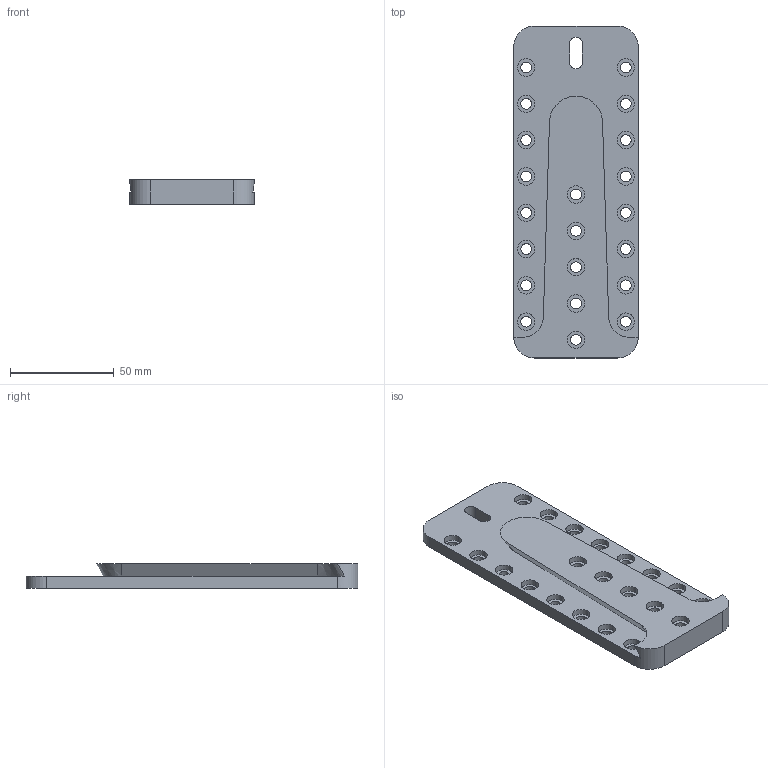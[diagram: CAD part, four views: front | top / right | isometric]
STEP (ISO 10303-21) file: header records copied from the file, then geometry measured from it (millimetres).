
FILE_DESCRIPTION (( 'STEP AP203' ), '1' );
FILE_NAME ('UV_60_HT_Holz.STEP', '2019-11-14T13:33:45', ( '' ), ( '' ), 'SwSTEP 2.0', 'SolidWorks 2013', '' );
FILE_SCHEMA (( 'CONFIG_CONTROL_DESIGN' ));
Length unit declared in the file: millimetre
Products named in the file (1): UV_60_HT_Holz
Bounding box: 60 x 160 x 12 mm (x, y, z)
Volume: 71499 mm3; surface area: 27044.9 mm2
Topology: 1 solids, 1 shells, 127 faces, 312 edges, 208 vertices
Faces by surface type: cylinder 90, plane 34, cone 3
Entity records: 4019 total; most frequent: DIRECTION 754, CARTESIAN_POINT 654, ORIENTED_EDGE 624, AXIS2_PLACEMENT_3D 316, EDGE_CURVE 312, VERTEX_POINT 208, EDGE_LOOP 192, CIRCLE 188
